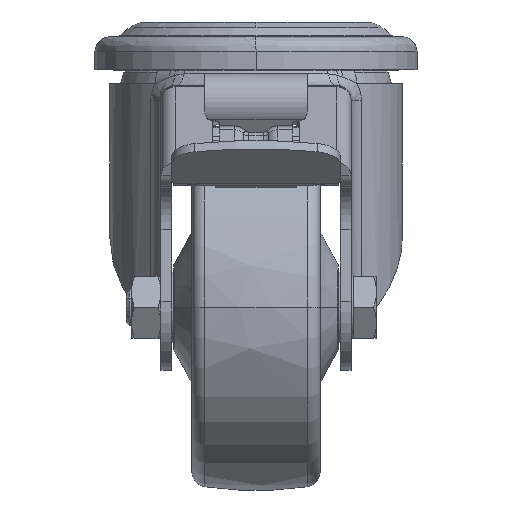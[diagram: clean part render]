
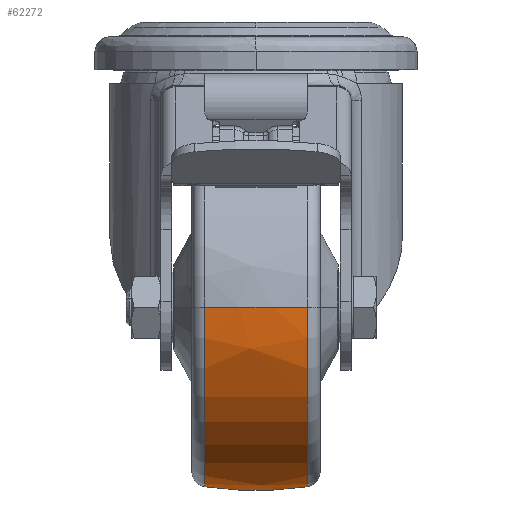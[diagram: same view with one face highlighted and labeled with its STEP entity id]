
A CAD part, top view. The second image highlights one B-rep face of the part: STEP entity #62272.
In plain terms, the highlighted free-form (B-spline) face has degree [3, 3] with [7, 4] control points.
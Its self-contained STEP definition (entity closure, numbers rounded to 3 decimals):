
#2662 = CARTESIAN_POINT ( 'NONE',  ( -4.909, -50.261, -3.162 ) ) ;
#3078 = CARTESIAN_POINT ( 'NONE',  ( 14.621, -30.109, 48.925 ) ) ;
#4277 = CARTESIAN_POINT ( 'NONE',  ( -4.909, 52.207, 27.769 ) ) ;
#5624 = VERTEX_POINT ( 'NONE', #99867 ) ;
#12048 = CARTESIAN_POINT ( 'NONE',  ( 14.621, 0., 48.925 ) ) ;
#12452 = CARTESIAN_POINT ( 'NONE',  ( 14.621, -50.719, 26.977 ) ) ;
#13277 = CARTESIAN_POINT ( 'NONE',  ( 14.621, 50.719, 26.977 ) ) ;
#14891 = AXIS2_PLACEMENT_3D ( 'NONE', #39450, #95739, #75295 ) ;
#16139 = DIRECTION ( 'NONE',  ( 0., -1., 0. ) ) ;
#19390 = EDGE_CURVE ( 'NONE', #36268, #5624, #46209, .T. ) ;
#21395 = CARTESIAN_POINT ( 'NONE',  ( -14.621, 30.109, 48.925 ) ) ;
#22193 = CARTESIAN_POINT ( 'NONE',  ( -4.909, -30.992, 50.361 ) ) ;
#22688 = DIRECTION ( 'NONE',  ( -1., 0., 0. ) ) ;
#23869 = EDGE_CURVE ( 'NONE', #86079, #36268, #32618, .T. ) ;
#30625 = EDGE_CURVE ( 'NONE', #103363, #5624, #76929, .T. ) ;
#32331 = CARTESIAN_POINT ( 'NONE',  ( 14.621, 48.829, -3.072 ) ) ;
#32618 = CIRCLE ( 'NONE', #14891, 100. ) ;
#36268 = VERTEX_POINT ( 'NONE', #107391 ) ;
#37697 = CARTESIAN_POINT ( 'NONE',  ( 14.063, -49.006, 0. ) ) ;
#39277 = ORIENTED_EDGE ( 'NONE', *, *, #23869, .F. ) ;
#39450 = CARTESIAN_POINT ( 'NONE',  ( 0., 50., 0. ) ) ;
#40117 = CARTESIAN_POINT ( 'NONE',  ( -4.909, 50.261, -3.162 ) ) ;
#40515 = CARTESIAN_POINT ( 'NONE',  ( 4.909, 50.261, -3.162 ) ) ;
#42333 = DIRECTION ( 'NONE',  ( 0., 0., 1. ) ) ;
#43843 = CARTESIAN_POINT ( 'NONE',  ( 14.063, 0., 0. ) ) ;
#46209 = CIRCLE ( 'NONE', #55827, 49.006 ) ;
#49082 = CARTESIAN_POINT ( 'NONE',  ( 4.909, 30.992, 50.361 ) ) ;
#49767 = AXIS2_PLACEMENT_3D ( 'NONE', #43843, #71880, #16139 ) ;
#50295 = CARTESIAN_POINT ( 'NONE',  ( -14.621, -30.109, 48.925 ) ) ;
#51644 = CARTESIAN_POINT ( 'NONE',  ( 0., -50., 0. ) ) ;
#55827 = AXIS2_PLACEMENT_3D ( 'NONE', #105817, #22688, #59737 ) ;
#56422 = ORIENTED_EDGE ( 'NONE', *, *, #30625, .T. ) ;
#59642 = CARTESIAN_POINT ( 'NONE',  ( 4.909, 0., 50.361 ) ) ;
#59737 = DIRECTION ( 'NONE',  ( 0., -1., 0. ) ) ;
#62272 = ADVANCED_FACE ( 'NONE', ( #115911 ), #74370, .T. ) ;
#68986 = CARTESIAN_POINT ( 'NONE',  ( 14.621, -48.829, -3.072 ) ) ;
#69396 = CARTESIAN_POINT ( 'NONE',  ( 4.909, -50.261, -3.162 ) ) ;
#71880 = DIRECTION ( 'NONE',  ( -1., 0., 0. ) ) ;
#74370 =( BOUNDED_SURFACE ( )  B_SPLINE_SURFACE ( 3, 3, ( 
 ( #68986, #69396, #2662, #95977 ),
 ( #12452, #88147, #115887, #106126 ),
 ( #3078, #86950, #22193, #50295 ),
 ( #12048, #59642, #115492, #106530 ),
 ( #87356, #49082, #96397, #21395 ),
 ( #13277, #114280, #4277, #86544 ),
 ( #32331, #40515, #40117, #77545 ) ),
 .UNSPECIFIED., .F., .F., .T. ) 
 B_SPLINE_SURFACE_WITH_KNOTS ( ( 4, 3, 4 ),
 ( 4, 4 ),
 ( 0., 1., 2. ),
 ( 0., 1. ),
 .UNSPECIFIED. ) 
 GEOMETRIC_REPRESENTATION_ITEM ( )  RATIONAL_B_SPLINE_SURFACE ( (
 ( 1.194, 1.185, 1.185, 1.194),
 ( 0.943, 0.936, 0.936, 0.943),
 ( 0.943, 0.936, 0.936, 0.943),
 ( 1.194, 1.185, 1.185, 1.194),
 ( 0.943, 0.936, 0.936, 0.943),
 ( 0.943, 0.936, 0.936, 0.943),
 ( 1.194, 1.185, 1.185, 1.194) ) ) 
 REPRESENTATION_ITEM ( '' )  SURFACE ( )  );
#75295 = DIRECTION ( 'NONE',  ( 0.141, -0.99, 0. ) ) ;
#76929 = CIRCLE ( 'NONE', #93334, 100. ) ;
#77545 = CARTESIAN_POINT ( 'NONE',  ( -14.621, 48.829, -3.072 ) ) ;
#86079 = VERTEX_POINT ( 'NONE', #37697 ) ;
#86544 = CARTESIAN_POINT ( 'NONE',  ( -14.621, 50.719, 26.977 ) ) ;
#86950 = CARTESIAN_POINT ( 'NONE',  ( 4.909, -30.992, 50.361 ) ) ;
#87356 = CARTESIAN_POINT ( 'NONE',  ( 14.621, 30.109, 48.925 ) ) ;
#88147 = CARTESIAN_POINT ( 'NONE',  ( 4.909, -52.207, 27.769 ) ) ;
#89133 = DIRECTION ( 'NONE',  ( 0.141, 0.99, 0. ) ) ;
#93334 = AXIS2_PLACEMENT_3D ( 'NONE', #51644, #42333, #89133 ) ;
#93604 = CIRCLE ( 'NONE', #49767, 49.006 ) ;
#94191 = CARTESIAN_POINT ( 'NONE',  ( 14.063, 49.006, 0. ) ) ;
#94661 = ORIENTED_EDGE ( 'NONE', *, *, #103776, .T. ) ;
#95739 = DIRECTION ( 'NONE',  ( 0., 0., -1. ) ) ;
#95977 = CARTESIAN_POINT ( 'NONE',  ( -14.621, -48.829, -3.072 ) ) ;
#96397 = CARTESIAN_POINT ( 'NONE',  ( -4.909, 30.992, 50.361 ) ) ;
#99867 = CARTESIAN_POINT ( 'NONE',  ( -14.063, 49.006, 0. ) ) ;
#103363 = VERTEX_POINT ( 'NONE', #94191 ) ;
#103776 = EDGE_CURVE ( 'NONE', #86079, #103363, #93604, .T. ) ;
#105817 = CARTESIAN_POINT ( 'NONE',  ( -14.063, 0., 0. ) ) ;
#106126 = CARTESIAN_POINT ( 'NONE',  ( -14.621, -50.719, 26.977 ) ) ;
#106530 = CARTESIAN_POINT ( 'NONE',  ( -14.621, 0., 48.925 ) ) ;
#107391 = CARTESIAN_POINT ( 'NONE',  ( -14.063, -49.006, 0. ) ) ;
#107787 = EDGE_LOOP ( 'NONE', ( #94661, #56422, #118979, #39277 ) ) ;
#114280 = CARTESIAN_POINT ( 'NONE',  ( 4.909, 52.207, 27.769 ) ) ;
#115492 = CARTESIAN_POINT ( 'NONE',  ( -4.909, 0., 50.361 ) ) ;
#115887 = CARTESIAN_POINT ( 'NONE',  ( -4.909, -52.207, 27.769 ) ) ;
#115911 = FACE_OUTER_BOUND ( 'NONE', #107787, .T. ) ;
#118979 = ORIENTED_EDGE ( 'NONE', *, *, #19390, .F. ) ;
